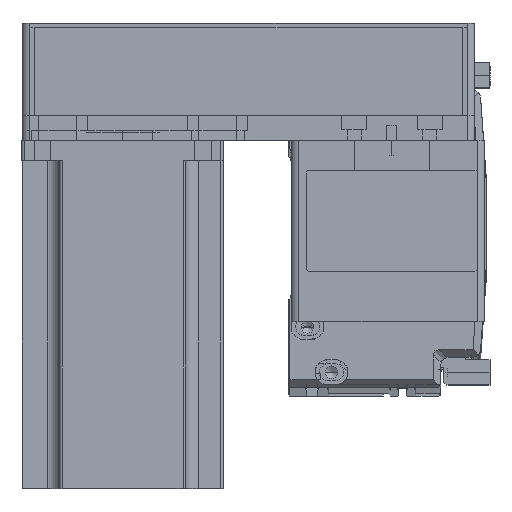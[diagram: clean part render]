
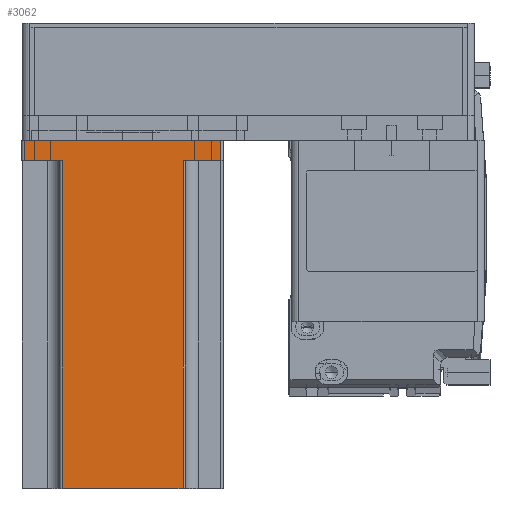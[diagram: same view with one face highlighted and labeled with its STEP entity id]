
A CAD part, top view. The second image highlights one B-rep face of the part: STEP entity #3062.
In plain terms, the highlighted planar face has unit normal (0, 0, 1) as drawn and (0, 1, 0) by its records, which use the part's own axes.
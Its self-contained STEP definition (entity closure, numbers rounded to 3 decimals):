
#236 = CARTESIAN_POINT ( 'NONE',  ( -39., 40., 0. ) ) ;
#715 = CARTESIAN_POINT ( 'NONE',  ( -39., 40., 138.3 ) ) ;
#1480 = VECTOR ( 'NONE', #4061, 1000. ) ;
#1925 = LINE ( 'NONE', #46698, #14439 ) ;
#3062 = ADVANCED_FACE ( 'NONE', ( #54467 ), #29392, .F. ) ;
#3268 = VERTEX_POINT ( 'NONE', #236 ) ;
#3663 = EDGE_CURVE ( 'NONE', #56939, #46080, #39469, .T. ) ;
#3922 = CARTESIAN_POINT ( 'NONE',  ( 24., 40., 138.3 ) ) ;
#4061 = DIRECTION ( 'NONE',  ( 1., 0., 0. ) ) ;
#5142 = VECTOR ( 'NONE', #27460, 1000. ) ;
#6309 = ORIENTED_EDGE ( 'NONE', *, *, #16398, .T. ) ;
#6591 = LINE ( 'NONE', #3922, #5142 ) ;
#7277 = EDGE_CURVE ( 'NONE', #58285, #59868, #10158, .T. ) ;
#9031 = VECTOR ( 'NONE', #28698, 1000. ) ;
#9249 = DIRECTION ( 'NONE',  ( -1., 0., 0. ) ) ;
#10158 = LINE ( 'NONE', #26173, #46242 ) ;
#13812 = ORIENTED_EDGE ( 'NONE', *, *, #57210, .T. ) ;
#14405 = VECTOR ( 'NONE', #9249, 1000. ) ;
#14439 = VECTOR ( 'NONE', #51430, 1000. ) ;
#15059 = VECTOR ( 'NONE', #33837, 1000. ) ;
#15554 = DIRECTION ( 'NONE',  ( 1., 0., 0. ) ) ;
#16398 = EDGE_CURVE ( 'NONE', #59973, #3268, #37007, .T. ) ;
#16750 = CARTESIAN_POINT ( 'NONE',  ( 24., 40., 8. ) ) ;
#17898 = VERTEX_POINT ( 'NONE', #22489 ) ;
#18109 = ORIENTED_EDGE ( 'NONE', *, *, #31814, .T. ) ;
#20286 = DIRECTION ( 'NONE',  ( 0., -1., 0. ) ) ;
#20352 = EDGE_LOOP ( 'NONE', ( #21665, #13812, #23420, #41410, #48950, #18109, #6309, #45894 ) ) ;
#21597 = LINE ( 'NONE', #33199, #9031 ) ;
#21665 = ORIENTED_EDGE ( 'NONE', *, *, #59860, .T. ) ;
#22489 = CARTESIAN_POINT ( 'NONE',  ( -39., 40., 8. ) ) ;
#23236 = CARTESIAN_POINT ( 'NONE',  ( -24., 40., 138.3 ) ) ;
#23420 = ORIENTED_EDGE ( 'NONE', *, *, #7277, .F. ) ;
#24034 = CARTESIAN_POINT ( 'NONE',  ( 39., 40., 0. ) ) ;
#24862 = CARTESIAN_POINT ( 'NONE',  ( 40., 40., 0. ) ) ;
#25091 = CARTESIAN_POINT ( 'NONE',  ( 40., 40., 138.3 ) ) ;
#26173 = CARTESIAN_POINT ( 'NONE',  ( 40., 40., 138.3 ) ) ;
#27460 = DIRECTION ( 'NONE',  ( 0., 0., -1. ) ) ;
#28698 = DIRECTION ( 'NONE',  ( 0., 0., 1. ) ) ;
#29392 = PLANE ( 'NONE',  #50211 ) ;
#31814 = EDGE_CURVE ( 'NONE', #56939, #59973, #1925, .T. ) ;
#32763 = CARTESIAN_POINT ( 'NONE',  ( 25., 40., 8. ) ) ;
#33053 = CARTESIAN_POINT ( 'NONE',  ( 24., 40., 138.3 ) ) ;
#33199 = CARTESIAN_POINT ( 'NONE',  ( -24., 40., 138.3 ) ) ;
#33837 = DIRECTION ( 'NONE',  ( 0., 0., 1. ) ) ;
#36159 = CARTESIAN_POINT ( 'NONE',  ( -24., 40., 8. ) ) ;
#37007 = LINE ( 'NONE', #24862, #60561 ) ;
#37028 = CARTESIAN_POINT ( 'NONE',  ( -25., 40., 8. ) ) ;
#39469 = LINE ( 'NONE', #32763, #14405 ) ;
#40150 = LINE ( 'NONE', #715, #15059 ) ;
#41410 = ORIENTED_EDGE ( 'NONE', *, *, #53812, .T. ) ;
#45894 = ORIENTED_EDGE ( 'NONE', *, *, #50448, .T. ) ;
#46080 = VERTEX_POINT ( 'NONE', #16750 ) ;
#46242 = VECTOR ( 'NONE', #54297, 1000. ) ;
#46698 = CARTESIAN_POINT ( 'NONE',  ( 39., 40., 138.3 ) ) ;
#48574 = VERTEX_POINT ( 'NONE', #36159 ) ;
#48950 = ORIENTED_EDGE ( 'NONE', *, *, #3663, .F. ) ;
#50081 = LINE ( 'NONE', #37028, #1480 ) ;
#50105 = CARTESIAN_POINT ( 'NONE',  ( 39., 40., 8. ) ) ;
#50211 = AXIS2_PLACEMENT_3D ( 'NONE', #25091, #20286, #15554 ) ;
#50448 = EDGE_CURVE ( 'NONE', #3268, #17898, #40150, .T. ) ;
#51430 = DIRECTION ( 'NONE',  ( 0., 0., -1. ) ) ;
#53812 = EDGE_CURVE ( 'NONE', #58285, #46080, #6591, .T. ) ;
#54297 = DIRECTION ( 'NONE',  ( -1., 0., 0. ) ) ;
#54467 = FACE_OUTER_BOUND ( 'NONE', #20352, .T. ) ;
#56939 = VERTEX_POINT ( 'NONE', #50105 ) ;
#57210 = EDGE_CURVE ( 'NONE', #48574, #59868, #21597, .T. ) ;
#57730 = DIRECTION ( 'NONE',  ( -1., 0., 0. ) ) ;
#58285 = VERTEX_POINT ( 'NONE', #33053 ) ;
#59860 = EDGE_CURVE ( 'NONE', #17898, #48574, #50081, .T. ) ;
#59868 = VERTEX_POINT ( 'NONE', #23236 ) ;
#59973 = VERTEX_POINT ( 'NONE', #24034 ) ;
#60561 = VECTOR ( 'NONE', #57730, 1000. ) ;
